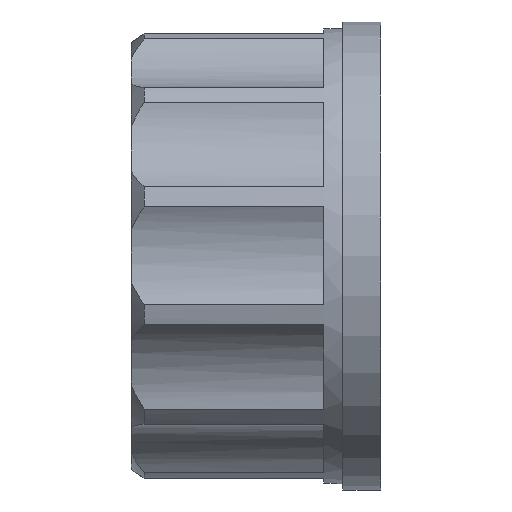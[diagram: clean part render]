
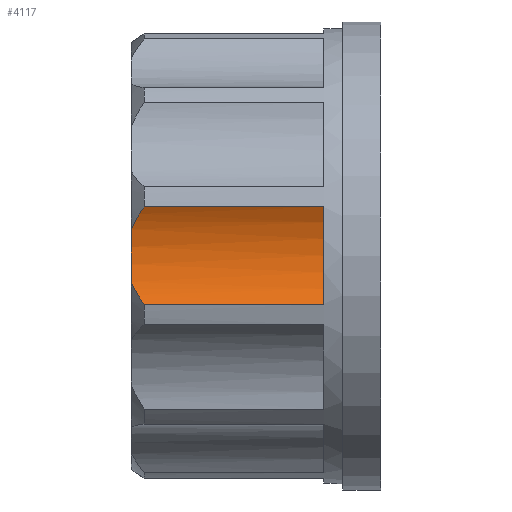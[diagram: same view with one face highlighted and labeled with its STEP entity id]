
A CAD part, top view. The second image highlights one B-rep face of the part: STEP entity #4117.
In plain terms, the highlighted cylindrical face has radius 8 mm (diameter 16 mm), a partial arc.
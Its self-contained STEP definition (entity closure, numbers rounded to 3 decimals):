
#255 = ORIENTED_EDGE ( 'NONE', *, *, #5408, .F. ) ;
#257 = CARTESIAN_POINT ( 'NONE',  ( -4.5, 3.845, 17.585 ) ) ;
#261 = ORIENTED_EDGE ( 'NONE', *, *, #4466, .F. ) ;
#295 = VECTOR ( 'NONE', #2656, 1000. ) ;
#316 = VERTEX_POINT ( 'NONE', #1574 ) ;
#373 = ORIENTED_EDGE ( 'NONE', *, *, #4392, .T. ) ;
#378 = ORIENTED_EDGE ( 'NONE', *, *, #4473, .F. ) ;
#503 = ORIENTED_EDGE ( 'NONE', *, *, #5104, .F. ) ;
#564 = ORIENTED_EDGE ( 'NONE', *, *, #5117, .F. ) ;
#618 = CARTESIAN_POINT ( 'NONE',  ( -4.5, -3.845, 17.585 ) ) ;
#625 = VERTEX_POINT ( 'NONE', #1080 ) ;
#678 = VECTOR ( 'NONE', #2721, 1000. ) ;
#693 = CARTESIAN_POINT ( 'NONE',  ( -18.7, 3.845, 17.585 ) ) ;
#903 = VERTEX_POINT ( 'NONE', #693 ) ;
#922 = VERTEX_POINT ( 'NONE', #618 ) ;
#1080 = CARTESIAN_POINT ( 'NONE',  ( -19.7, -2.073, 16.873 ) ) ;
#1251 = AXIS2_PLACEMENT_3D ( 'NONE', #1360, #1356, #1352 ) ;
#1296 = VERTEX_POINT ( 'NONE', #257 ) ;
#1352 = DIRECTION ( 'NONE',  ( 0., 1., 0. ) ) ;
#1356 = DIRECTION ( 'NONE',  ( -1., 0., 0. ) ) ;
#1360 = CARTESIAN_POINT ( 'NONE',  ( -4.5, 0., 24.6 ) ) ;
#1574 = CARTESIAN_POINT ( 'NONE',  ( -19.7, 2.073, 16.873 ) ) ;
#1580 = AXIS2_PLACEMENT_3D ( 'NONE', #2064, #2032, #2022 ) ;
#1865 = CIRCLE ( 'NONE', #1580, 8. ) ;
#2022 = DIRECTION ( 'NONE',  ( 0., 1., 0. ) ) ;
#2032 = DIRECTION ( 'NONE',  ( -1., 0., 0. ) ) ;
#2059 = AXIS2_PLACEMENT_3D ( 'NONE', #3698, #3581, #3659 ) ;
#2064 = CARTESIAN_POINT ( 'NONE',  ( -19.7, 0., 24.6 ) ) ;
#2656 = DIRECTION ( 'NONE',  ( 1., 0., 0. ) ) ;
#2721 = DIRECTION ( 'NONE',  ( -1., 0., 0. ) ) ;
#2726 = CARTESIAN_POINT ( 'NONE',  ( -12.1, -3.845, 17.585 ) ) ;
#2730 = CARTESIAN_POINT ( 'NONE',  ( -12.1, 3.845, 17.585 ) ) ;
#2936 = EDGE_LOOP ( 'NONE', ( #503, #255, #564, #261, #373, #378 ) ) ;
#3328 = B_SPLINE_CURVE_WITH_KNOTS ( 'NONE', 3,
 ( #5970, #5939, #5941, #5937 ),
 .UNSPECIFIED., .F., .F.,
 ( 4, 4 ),
 ( 0., 0.002 ),
 .UNSPECIFIED. ) ;
#3581 = DIRECTION ( 'NONE',  ( -1., 0., 0. ) ) ;
#3596 = LINE ( 'NONE', #2730, #295 ) ;
#3659 = DIRECTION ( 'NONE',  ( 0., 0., 1. ) ) ;
#3698 = CARTESIAN_POINT ( 'NONE',  ( -4.5, 0., 24.6 ) ) ;
#3871 = B_SPLINE_CURVE_WITH_KNOTS ( 'NONE', 3,
 ( #5997, #6011, #5991, #5990 ),
 .UNSPECIFIED., .F., .F.,
 ( 4, 4 ),
 ( 0., 0.002 ),
 .UNSPECIFIED. ) ;
#4117 = ADVANCED_FACE ( 'NONE', ( #4740 ), #6025, .F. ) ;
#4392 = EDGE_CURVE ( 'NONE', #316, #625, #1865, .T. ) ;
#4402 = CARTESIAN_POINT ( 'NONE',  ( -18.7, -3.845, 17.585 ) ) ;
#4466 = EDGE_CURVE ( 'NONE', #316, #903, #3871, .T. ) ;
#4473 = EDGE_CURVE ( 'NONE', #4748, #625, #3328, .T. ) ;
#4740 = FACE_OUTER_BOUND ( 'NONE', #2936, .T. ) ;
#4748 = VERTEX_POINT ( 'NONE', #4402 ) ;
#5104 = EDGE_CURVE ( 'NONE', #922, #4748, #6030, .T. ) ;
#5117 = EDGE_CURVE ( 'NONE', #903, #1296, #3596, .T. ) ;
#5408 = EDGE_CURVE ( 'NONE', #1296, #922, #5640, .T. ) ;
#5640 = CIRCLE ( 'NONE', #1251, 8. ) ;
#5937 = CARTESIAN_POINT ( 'NONE',  ( -19.7, -2.073, 16.873 ) ) ;
#5939 = CARTESIAN_POINT ( 'NONE',  ( -19.099, -3.313, 17.293 ) ) ;
#5941 = CARTESIAN_POINT ( 'NONE',  ( -19.444, -2.731, 17.05 ) ) ;
#5970 = CARTESIAN_POINT ( 'NONE',  ( -18.7, -3.845, 17.585 ) ) ;
#5990 = CARTESIAN_POINT ( 'NONE',  ( -18.7, 3.845, 17.585 ) ) ;
#5991 = CARTESIAN_POINT ( 'NONE',  ( -19.099, 3.313, 17.293 ) ) ;
#5997 = CARTESIAN_POINT ( 'NONE',  ( -19.7, 2.073, 16.873 ) ) ;
#6011 = CARTESIAN_POINT ( 'NONE',  ( -19.444, 2.731, 17.05 ) ) ;
#6025 = CYLINDRICAL_SURFACE ( 'NONE', #2059, 8. ) ;
#6030 = LINE ( 'NONE', #2726, #678 ) ;
